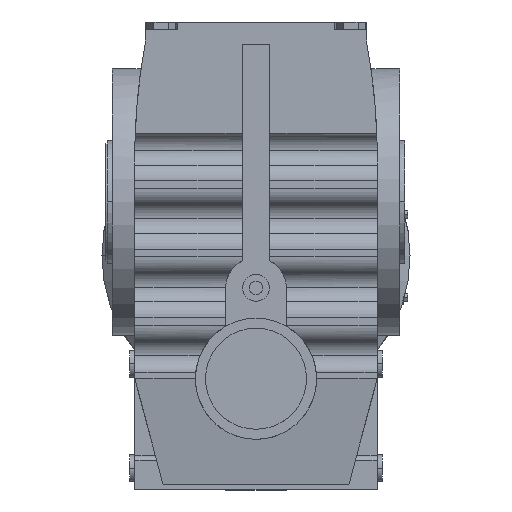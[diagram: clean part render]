
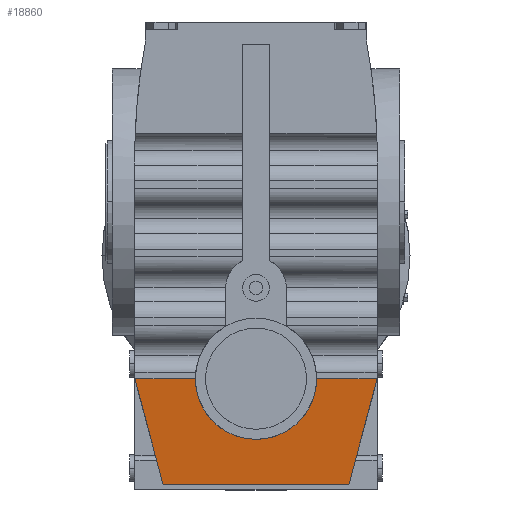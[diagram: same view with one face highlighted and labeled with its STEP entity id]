
A CAD part, top view. The second image highlights one B-rep face of the part: STEP entity #18860.
In plain terms, the highlighted planar face has unit normal (0, -0.126, 0.992).
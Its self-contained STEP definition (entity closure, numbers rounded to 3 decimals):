
#6075 = VERTEX_POINT('',#6076);
#6076 = CARTESIAN_POINT('',(-118.,-120.333,397.25));
#6090 = PLANE('',#6091);
#6091 = AXIS2_PLACEMENT_3D('',#6092,#6093,#6094);
#6092 = CARTESIAN_POINT('',(-118.,-120.333,-3.));
#6093 = DIRECTION('',(-0.966,-0.259,0.));
#6094 = DIRECTION('',(0.259,-0.966,0.));
#6118 = PLANE('',#6119);
#6119 = AXIS2_PLACEMENT_3D('',#6120,#6121,#6122);
#6120 = CARTESIAN_POINT('',(118.,227.,397.25));
#6121 = DIRECTION('',(0.,0.,-1.));
#6122 = DIRECTION('',(0.,1.,0.));
#9759 = VERTEX_POINT('',#9760);
#9760 = CARTESIAN_POINT('',(-90.491,-223.,384.25));
#9774 = PLANE('',#9775);
#9775 = AXIS2_PLACEMENT_3D('',#9776,#9777,#9778);
#9776 = CARTESIAN_POINT('',(118.,-223.,81.25));
#9777 = DIRECTION('',(0.,1.,0.));
#9778 = DIRECTION('',(0.,0.,1.));
#9786 = EDGE_CURVE('',#9759,#6075,#9787,.T.);
#9787 = SURFACE_CURVE('',#9788,(#9792,#9799),.PCURVE_S1.);
#9788 = LINE('',#9789,#9790);
#9789 = CARTESIAN_POINT('',(-76.73,-274.354,
    377.747));
#9790 = VECTOR('',#9791,1.);
#9791 = DIRECTION('',(-0.257,0.959,0.121));
#9792 = PCURVE('',#6090,#9793);
#9793 = DEFINITIONAL_REPRESENTATION('',(#9794),#9798);
#9794 = LINE('',#9795,#9796);
#9795 = CARTESIAN_POINT('',(159.454,380.747));
#9796 = VECTOR('',#9797,1.);
#9797 = DIRECTION('',(-0.993,0.121));
#9798 = ( GEOMETRIC_REPRESENTATION_CONTEXT(2) 
PARAMETRIC_REPRESENTATION_CONTEXT() REPRESENTATION_CONTEXT('2D SPACE',''
  ) );
#9799 = PCURVE('',#9800,#9805);
#9800 = PLANE('',#9801);
#9801 = AXIS2_PLACEMENT_3D('',#9802,#9803,#9804);
#9802 = CARTESIAN_POINT('',(118.,-223.,384.25));
#9803 = DIRECTION('',(0.,0.126,-0.992));
#9804 = DIRECTION('',(0.,0.992,0.126));
#9805 = DEFINITIONAL_REPRESENTATION('',(#9806),#9810);
#9806 = LINE('',#9807,#9808);
#9807 = CARTESIAN_POINT('',(-51.764,-194.73));
#9808 = VECTOR('',#9809,1.);
#9809 = DIRECTION('',(0.966,-0.257));
#9810 = ( GEOMETRIC_REPRESENTATION_CONTEXT(2) 
PARAMETRIC_REPRESENTATION_CONTEXT() REPRESENTATION_CONTEXT('2D SPACE',''
  ) );
#12647 = VERTEX_POINT('',#12648);
#12648 = CARTESIAN_POINT('',(-59.,-120.333,397.25));
#12675 = EDGE_CURVE('',#12647,#6075,#12676,.T.);
#12676 = SURFACE_CURVE('',#12677,(#12681,#12688),.PCURVE_S1.);
#12677 = LINE('',#12678,#12679);
#12678 = CARTESIAN_POINT('',(118.,-120.333,397.25));
#12679 = VECTOR('',#12680,1.);
#12680 = DIRECTION('',(-1.,0.,0.));
#12681 = PCURVE('',#6118,#12682);
#12682 = DEFINITIONAL_REPRESENTATION('',(#12683),#12687);
#12683 = LINE('',#12684,#12685);
#12684 = CARTESIAN_POINT('',(-347.333,0.));
#12685 = VECTOR('',#12686,1.);
#12686 = DIRECTION('',(0.,-1.));
#12687 = ( GEOMETRIC_REPRESENTATION_CONTEXT(2) 
PARAMETRIC_REPRESENTATION_CONTEXT() REPRESENTATION_CONTEXT('2D SPACE',''
  ) );
#12688 = PCURVE('',#9800,#12689);
#12689 = DEFINITIONAL_REPRESENTATION('',(#12690),#12694);
#12690 = LINE('',#12691,#12692);
#12691 = CARTESIAN_POINT('',(103.486,0.));
#12692 = VECTOR('',#12693,1.);
#12693 = DIRECTION('',(0.,-1.));
#12694 = ( GEOMETRIC_REPRESENTATION_CONTEXT(2) 
PARAMETRIC_REPRESENTATION_CONTEXT() REPRESENTATION_CONTEXT('2D SPACE',''
  ) );
#12996 = PLANE('',#12997);
#12997 = AXIS2_PLACEMENT_3D('',#12998,#12999,#13000);
#12998 = CARTESIAN_POINT('',(118.,-120.333,-3.));
#12999 = DIRECTION('',(0.966,-0.259,0.));
#13000 = DIRECTION('',(0.259,0.966,0.));
#18817 = VERTEX_POINT('',#18818);
#18818 = CARTESIAN_POINT('',(90.491,-223.,384.25));
#18839 = EDGE_CURVE('',#18817,#9759,#18840,.T.);
#18840 = SURFACE_CURVE('',#18841,(#18845,#18852),.PCURVE_S1.);
#18841 = LINE('',#18842,#18843);
#18842 = CARTESIAN_POINT('',(118.,-223.,384.25));
#18843 = VECTOR('',#18844,1.);
#18844 = DIRECTION('',(-1.,0.,0.));
#18845 = PCURVE('',#9774,#18846);
#18846 = DEFINITIONAL_REPRESENTATION('',(#18847),#18851);
#18847 = LINE('',#18848,#18849);
#18848 = CARTESIAN_POINT('',(303.,0.));
#18849 = VECTOR('',#18850,1.);
#18850 = DIRECTION('',(0.,-1.));
#18851 = ( GEOMETRIC_REPRESENTATION_CONTEXT(2) 
PARAMETRIC_REPRESENTATION_CONTEXT() REPRESENTATION_CONTEXT('2D SPACE',''
  ) );
#18852 = PCURVE('',#9800,#18853);
#18853 = DEFINITIONAL_REPRESENTATION('',(#18854),#18858);
#18854 = LINE('',#18855,#18856);
#18855 = CARTESIAN_POINT('',(0.,0.));
#18856 = VECTOR('',#18857,1.);
#18857 = DIRECTION('',(0.,-1.));
#18858 = ( GEOMETRIC_REPRESENTATION_CONTEXT(2) 
PARAMETRIC_REPRESENTATION_CONTEXT() REPRESENTATION_CONTEXT('2D SPACE',''
  ) );
#18860 = ADVANCED_FACE('',(#18861),#9800,.F.);
#18861 = FACE_BOUND('',#18862,.T.);
#18862 = EDGE_LOOP('',(#18863,#18915,#18916,#18917,#18918,#18941));
#18863 = ORIENTED_EDGE('',*,*,#18864,.F.);
#18864 = EDGE_CURVE('',#12647,#18865,#18867,.T.);
#18865 = VERTEX_POINT('',#18866);
#18866 = CARTESIAN_POINT('',(59.,-120.333,397.25));
#18867 = SURFACE_CURVE('',#18868,(#18873,#18881),.PCURVE_S1.);
#18868 = ( BOUNDED_CURVE() B_SPLINE_CURVE(3,(#18869,#18870,#18871,#18872
),.UNSPECIFIED.,.F.,.F.) B_SPLINE_CURVE_WITH_KNOTS((4,4),(4.712
,7.854),.PIECEWISE_BEZIER_KNOTS.) CURVE() 
GEOMETRIC_REPRESENTATION_ITEM() RATIONAL_B_SPLINE_CURVE((1.,
0.333,0.333,1.)) REPRESENTATION_ITEM('') );
#18869 = CARTESIAN_POINT('',(-59.,-120.333,397.25));
#18870 = CARTESIAN_POINT('',(-59.,-238.333,382.308));
#18871 = CARTESIAN_POINT('',(59.,-238.333,382.308));
#18872 = CARTESIAN_POINT('',(59.,-120.333,397.25));
#18873 = PCURVE('',#9800,#18874);
#18874 = DEFINITIONAL_REPRESENTATION('',(#18875),#18880);
#18875 = ( BOUNDED_CURVE() B_SPLINE_CURVE(3,(#18876,#18877,#18878,#18879
),.UNSPECIFIED.,.F.,.F.) B_SPLINE_CURVE_WITH_KNOTS((4,4),(4.712
,7.854),.PIECEWISE_BEZIER_KNOTS.) CURVE() 
GEOMETRIC_REPRESENTATION_ITEM() RATIONAL_B_SPLINE_CURVE((1.,
0.333,0.333,1.)) REPRESENTATION_ITEM('') );
#18876 = CARTESIAN_POINT('',(103.486,-177.));
#18877 = CARTESIAN_POINT('',(-15.456,-177.));
#18878 = CARTESIAN_POINT('',(-15.456,-59.));
#18879 = CARTESIAN_POINT('',(103.486,-59.));
#18880 = ( GEOMETRIC_REPRESENTATION_CONTEXT(2) 
PARAMETRIC_REPRESENTATION_CONTEXT() REPRESENTATION_CONTEXT('2D SPACE',''
  ) );
#18881 = PCURVE('',#18882,#18887);
#18882 = CYLINDRICAL_SURFACE('',#18883,59.);
#18883 = AXIS2_PLACEMENT_3D('',#18884,#18885,#18886);
#18884 = CARTESIAN_POINT('',(0.,-120.333,401.25));
#18885 = DIRECTION('',(0.,0.,-1.));
#18886 = DIRECTION('',(-1.,0.,0.));
#18887 = DEFINITIONAL_REPRESENTATION('',(#18888),#18914);
#18888 = B_SPLINE_CURVE_WITH_KNOTS('',3,(#18889,#18890,#18891,#18892,
    #18893,#18894,#18895,#18896,#18897,#18898,#18899,#18900,#18901,
    #18902,#18903,#18904,#18905,#18906,#18907,#18908,#18909,#18910,
    #18911,#18912,#18913),.UNSPECIFIED.,.F.,.F.,(4,1,1,1,1,1,1,1,1,1,1,1
    ,1,1,1,1,1,1,1,1,1,1,4),(4.712,4.855,
    4.998,5.141,5.284,5.426,
    5.569,5.712,5.855,5.998,
    6.14,6.283,6.426,6.569,
    6.712,6.854,6.997,7.14,
    7.283,7.426,7.568,7.711,
    7.854),.QUASI_UNIFORM_KNOTS.);
#18889 = CARTESIAN_POINT('',(6.283,4.));
#18890 = CARTESIAN_POINT('',(6.253,4.226));
#18891 = CARTESIAN_POINT('',(6.19,4.7));
#18892 = CARTESIAN_POINT('',(6.085,5.47));
#18893 = CARTESIAN_POINT('',(5.972,6.295));
#18894 = CARTESIAN_POINT('',(5.848,7.161));
#18895 = CARTESIAN_POINT('',(5.713,8.047));
#18896 = CARTESIAN_POINT('',(5.567,8.921));
#18897 = CARTESIAN_POINT('',(5.412,9.743));
#18898 = CARTESIAN_POINT('',(5.246,10.462));
#18899 = CARTESIAN_POINT('',(5.073,11.026));
#18900 = CARTESIAN_POINT('',(4.894,11.388));
#18901 = CARTESIAN_POINT('',(4.712,11.512));
#18902 = CARTESIAN_POINT('',(4.531,11.388));
#18903 = CARTESIAN_POINT('',(4.352,11.026));
#18904 = CARTESIAN_POINT('',(4.179,10.462));
#18905 = CARTESIAN_POINT('',(4.013,9.743));
#18906 = CARTESIAN_POINT('',(3.857,8.921));
#18907 = CARTESIAN_POINT('',(3.712,8.047));
#18908 = CARTESIAN_POINT('',(3.577,7.161));
#18909 = CARTESIAN_POINT('',(3.453,6.295));
#18910 = CARTESIAN_POINT('',(3.339,5.47));
#18911 = CARTESIAN_POINT('',(3.235,4.7));
#18912 = CARTESIAN_POINT('',(3.172,4.226));
#18913 = CARTESIAN_POINT('',(3.142,4.));
#18914 = ( GEOMETRIC_REPRESENTATION_CONTEXT(2) 
PARAMETRIC_REPRESENTATION_CONTEXT() REPRESENTATION_CONTEXT('2D SPACE',''
  ) );
#18915 = ORIENTED_EDGE('',*,*,#12675,.T.);
#18916 = ORIENTED_EDGE('',*,*,#9786,.F.);
#18917 = ORIENTED_EDGE('',*,*,#18839,.F.);
#18918 = ORIENTED_EDGE('',*,*,#18919,.F.);
#18919 = EDGE_CURVE('',#18920,#18817,#18922,.T.);
#18920 = VERTEX_POINT('',#18921);
#18921 = CARTESIAN_POINT('',(118.,-120.333,397.25));
#18922 = SURFACE_CURVE('',#18923,(#18927,#18934),.PCURVE_S1.);
#18923 = LINE('',#18924,#18925);
#18924 = CARTESIAN_POINT('',(92.306,-216.224,
    385.108));
#18925 = VECTOR('',#18926,1.);
#18926 = DIRECTION('',(-0.257,-0.959,-0.121));
#18927 = PCURVE('',#9800,#18928);
#18928 = DEFINITIONAL_REPRESENTATION('',(#18929),#18933);
#18929 = LINE('',#18930,#18931);
#18930 = CARTESIAN_POINT('',(6.83,-25.694));
#18931 = VECTOR('',#18932,1.);
#18932 = DIRECTION('',(-0.966,-0.257));
#18933 = ( GEOMETRIC_REPRESENTATION_CONTEXT(2) 
PARAMETRIC_REPRESENTATION_CONTEXT() REPRESENTATION_CONTEXT('2D SPACE',''
  ) );
#18934 = PCURVE('',#12996,#18935);
#18935 = DEFINITIONAL_REPRESENTATION('',(#18936),#18940);
#18936 = LINE('',#18937,#18938);
#18937 = CARTESIAN_POINT('',(-99.273,388.108));
#18938 = VECTOR('',#18939,1.);
#18939 = DIRECTION('',(-0.993,-0.121));
#18940 = ( GEOMETRIC_REPRESENTATION_CONTEXT(2) 
PARAMETRIC_REPRESENTATION_CONTEXT() REPRESENTATION_CONTEXT('2D SPACE',''
  ) );
#18941 = ORIENTED_EDGE('',*,*,#18942,.T.);
#18942 = EDGE_CURVE('',#18920,#18865,#18943,.T.);
#18943 = SURFACE_CURVE('',#18944,(#18948,#18955),.PCURVE_S1.);
#18944 = LINE('',#18945,#18946);
#18945 = CARTESIAN_POINT('',(118.,-120.333,397.25));
#18946 = VECTOR('',#18947,1.);
#18947 = DIRECTION('',(-1.,0.,0.));
#18948 = PCURVE('',#9800,#18949);
#18949 = DEFINITIONAL_REPRESENTATION('',(#18950),#18954);
#18950 = LINE('',#18951,#18952);
#18951 = CARTESIAN_POINT('',(103.486,0.));
#18952 = VECTOR('',#18953,1.);
#18953 = DIRECTION('',(0.,-1.));
#18954 = ( GEOMETRIC_REPRESENTATION_CONTEXT(2) 
PARAMETRIC_REPRESENTATION_CONTEXT() REPRESENTATION_CONTEXT('2D SPACE',''
  ) );
#18955 = PCURVE('',#18956,#18961);
#18956 = PLANE('',#18957);
#18957 = AXIS2_PLACEMENT_3D('',#18958,#18959,#18960);
#18958 = CARTESIAN_POINT('',(118.,227.,397.25));
#18959 = DIRECTION('',(0.,0.,-1.));
#18960 = DIRECTION('',(0.,1.,0.));
#18961 = DEFINITIONAL_REPRESENTATION('',(#18962),#18966);
#18962 = LINE('',#18963,#18964);
#18963 = CARTESIAN_POINT('',(-347.333,0.));
#18964 = VECTOR('',#18965,1.);
#18965 = DIRECTION('',(0.,-1.));
#18966 = ( GEOMETRIC_REPRESENTATION_CONTEXT(2) 
PARAMETRIC_REPRESENTATION_CONTEXT() REPRESENTATION_CONTEXT('2D SPACE',''
  ) );
